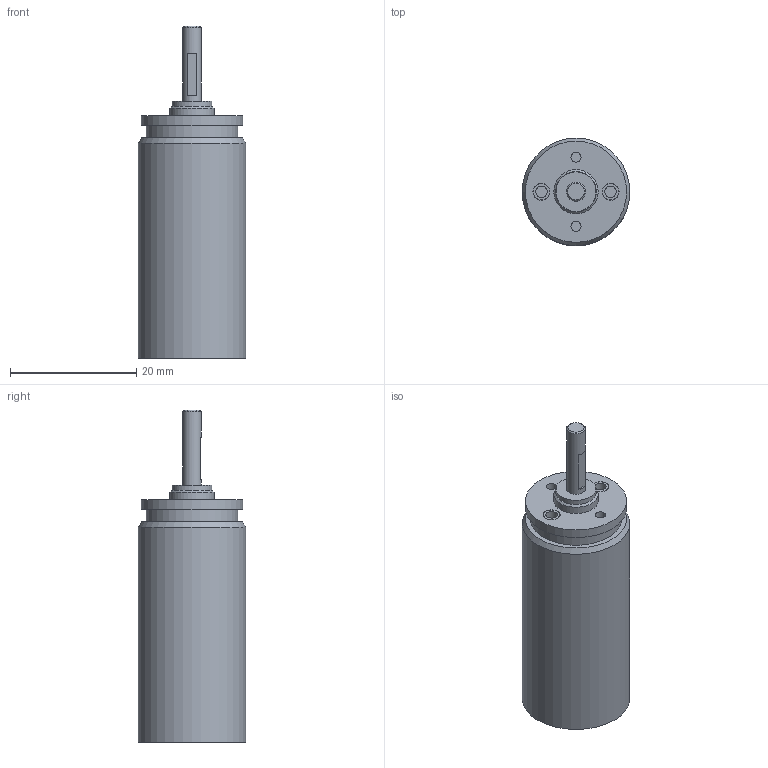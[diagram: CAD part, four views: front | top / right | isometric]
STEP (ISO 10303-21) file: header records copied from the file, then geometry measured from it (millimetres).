
FILE_DESCRIPTION(/* description */ (''),/* implementation_level */ '2;1');
FILE_NAME(/* name */ '16-5_7.stp',/* time_stamp */ '2016-08-25T11:34:15+02:00',/* author */ ('DR. FRITZ FAULHABER GmbH & Co. KG'),/* organization */ ('DR. FRITZ FAULHABER GmbH & Co. KG'),/* preprocessor_version */ 'ST-DEVELOPER v16',/* originating_system */ 'SIEMENS PLM Software NX 10.0',/* authorisation */ '');
FILE_SCHEMA (('AUTOMOTIVE_DESIGN { 1 0 10303 214 3 1 1 1 }'));
Length unit declared in the file: millimetre
Products named in the file (1): H00000536_A
Bounding box: 17 x 17 x 52.5 mm (x, y, z)
Volume: 6004.4 mm3; surface area: 3450.4 mm2
Topology: 1 solids, 1 shells, 41 faces, 65 edges, 43 vertices
Faces by surface type: plane 21, cylinder 17, cone 3
Full cylindrical faces by diameter (mm): 1.6 x2, 1.8 x2, 2.48 x1, 2.584 x2, 2.684 x2, 3 x1, 6 x1, 6.3 x1, 7 x1, 14.5 x1, 16 x2, 17 x1
Entity records: 856 total; most frequent: DIRECTION 166, CARTESIAN_POINT 126, ORIENTED_EDGE 86, AXIS2_PLACEMENT_3D 81, EDGE_LOOP 78, FACE_BOUND 69, EDGE_CURVE 43, ADVANCED_FACE 41
